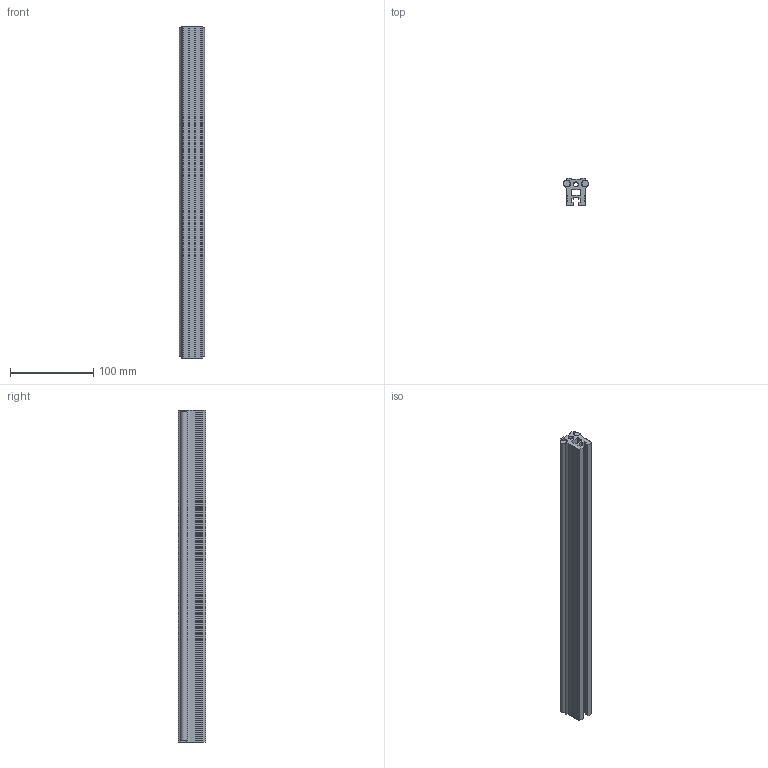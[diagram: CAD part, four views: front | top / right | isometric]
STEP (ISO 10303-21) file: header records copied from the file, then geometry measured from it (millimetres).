
FILE_DESCRIPTION (( 'STEP AP203' ), '1' );
FILE_NAME ('MLF 2_-_MLF 2 398 mm lang.step', '2005-06-03T08:34:53', ( ' ' ), ( ' ' ), 'SwSTEP 2.0', 'SolidWorks 2004231', '' );
FILE_SCHEMA (( 'CONFIG_CONTROL_DESIGN' ));
Length unit declared in the file: millimetre
Products named in the file (1): MLF 2_-_MLF 2  398 mm lang
Bounding box: 30 x 32.5 x 398 mm (x, y, z)
Volume: 223469.1 mm3; surface area: 100120.1 mm2
Topology: 1 solids, 1 shells, 112 faces, 342 edges, 224 vertices
Faces by surface type: plane 90, cylinder 22
Entity records: 3875 total; most frequent: ORIENTED_EDGE 684, CARTESIAN_POINT 679, DIRECTION 612, EDGE_CURVE 342, LINE 298, VECTOR 298, VERTEX_POINT 224, AXIS2_PLACEMENT_3D 157
